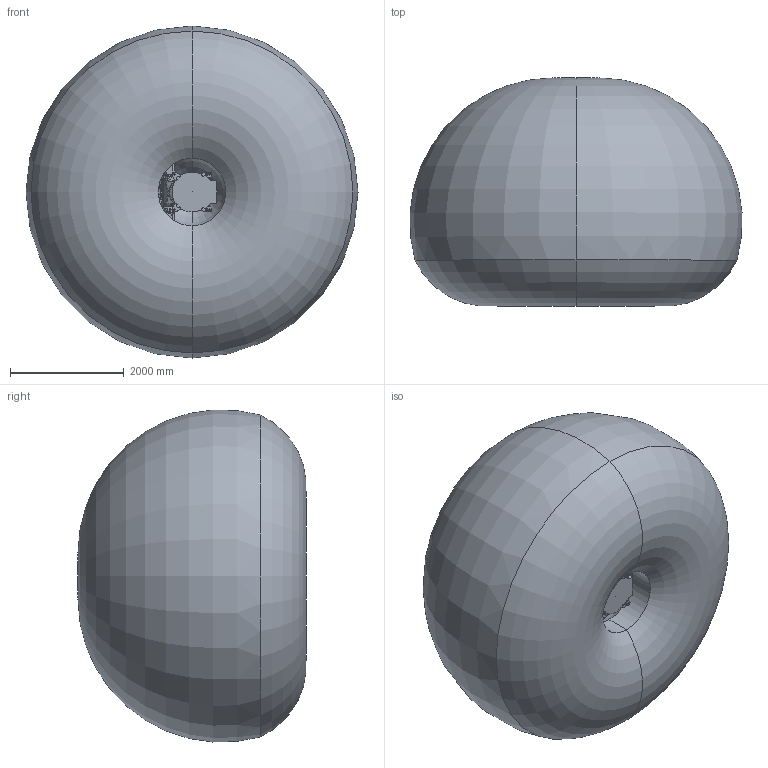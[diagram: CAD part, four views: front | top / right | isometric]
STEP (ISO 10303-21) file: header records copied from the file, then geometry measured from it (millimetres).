
FILE_DESCRIPTION (( 'STEP AP214' ), '1' );
FILE_NAME ('SMART-5 NJ4-170-2.9 (3D-STEP).STEP', '2011-03-31T14:15:14', ( '' ), ( '' ), 'SwSTEP 2.0', 'SolidWorks 2007', '' );
FILE_SCHEMA (( 'AUTOMOTIVE_DESIGN' ));
Length unit declared in the file: millimetre
Products named in the file (19): SMART-5 NJ4-170-2.9_CR82350031_SM; SMART-5 NJ4-170-2.9_CR82350041_SM; SMART-5 NJ4-170-2.9_CR82350050_SM; SMART-5 NJ4-170-2.9_CR82350090_SM; Operation area SMART NJ4-170-2.9; SMART-5 NJ4-170-2.9_p02; SMART-5 NJ4-170-2.9_p01; SMART-5 NJ4-170-2.9 (3D-STEP); SMART-5 NJ4-170-2.9_p06; SMART-5 NJ4-170-2.9_p05; SMART-5 NJ4-170-2.9_p04; SMART-5 NJ4-170-2.9_p03; SMART-5 NJ4-170-2.9_p10; SMART-5 NJ4-170-2.9_p09; SMART-5 NJ4-170-2.9_p08; SMART-5 NJ4-170-2.9_p07; SMART-5 NJ4-170-2.9_CR82350080_SM; SMART-5 NJ4-170-2.9_p12; SMART-5 NJ4-170-2.9_p11
Assembly tree (19 placements, depth 2):
  SMART-5 NJ4-170-2.9 (3D-STEP)
    SMART-5 NJ4-170-2.9_p10
    SMART-5 NJ4-170-2.9_CR82350090_SM  x2
    SMART-5 NJ4-170-2.9_p12
    SMART-5 NJ4-170-2.9_p09
    SMART-5 NJ4-170-2.9_p08
    SMART-5 NJ4-170-2.9_CR82350050_SM
    SMART-5 NJ4-170-2.9_p01
    Operation area SMART NJ4-170-2.9
    SMART-5 NJ4-170-2.9_p04
    SMART-5 NJ4-170-2.9_CR82350041_SM
    SMART-5 NJ4-170-2.9_CR82350080_SM
    SMART-5 NJ4-170-2.9_p05
    SMART-5 NJ4-170-2.9_p07
    SMART-5 NJ4-170-2.9_CR82350031_SM
    SMART-5 NJ4-170-2.9_p06
    SMART-5 NJ4-170-2.9_p11
    SMART-5 NJ4-170-2.9_p03
    SMART-5 NJ4-170-2.9_p02
Bounding box: 5845.44 x 4014.83 x 5845.44 mm (x, y, z)
Volume: 75944402146.3 mm3; surface area: 121157835.1 mm2
Topology: 19 solids, 25 shells, 4250 faces, 11358 edges, 7359 vertices
Faces by surface type: plane 1770, cylinder 1717, bspline 375, cone 273, torus 109, sphere 6
Entity records: 191734 total; most frequent: CARTESIAN_POINT 80269, ORIENTED_EDGE 21886, DIRECTION 19946, EDGE_CURVE 10943, AXIS2_PLACEMENT_3D 7254, VERTEX_POINT 7177, VECTOR 5438, LINE 5438
